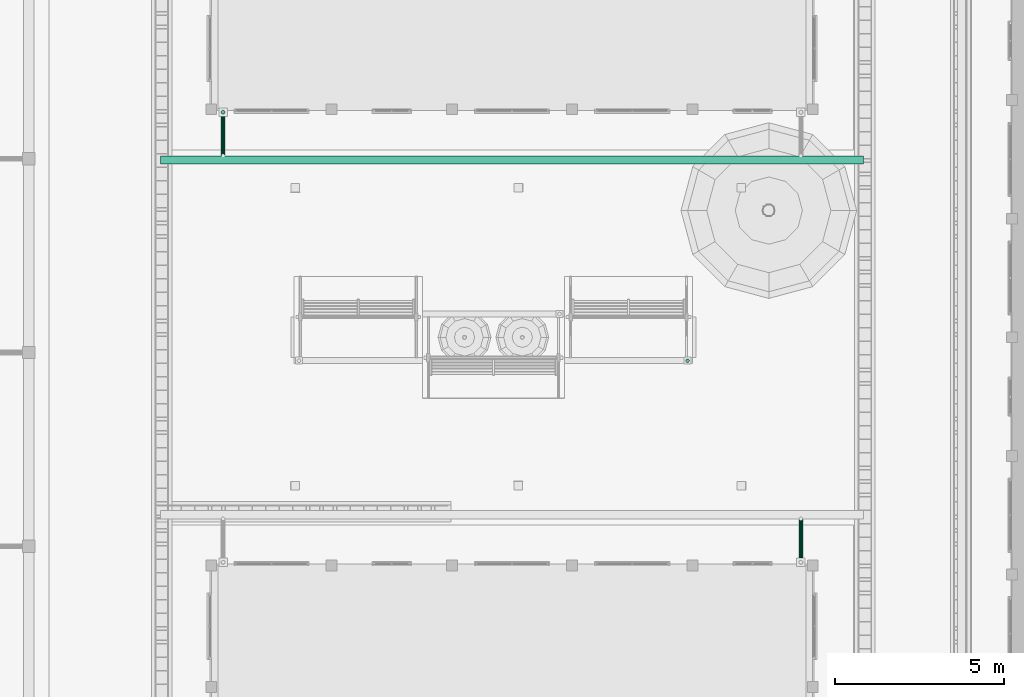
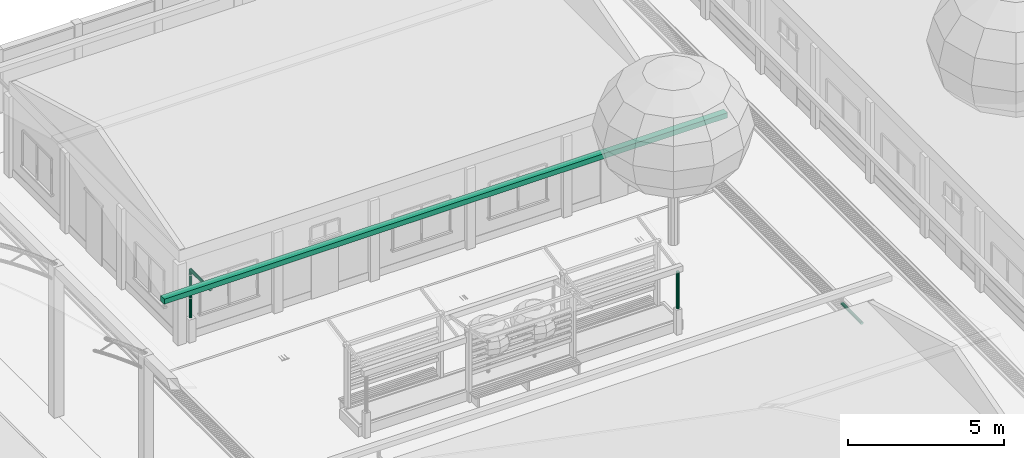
# One storey, part 102 of 166: 5 flow segments.
"""IFC2X3 building model written with IfcOpenShell, lengths in metres."""

from ifc_helpers import new_model, si_unit, origin, origin_with_axes, place, context, subcontext, project, spatial, faceted_brep, element, save


model = new_model("IFC2X3")

# Units and contexts
model_context = context("Model", 3, precision=1e-05, world=origin_with_axes())
body_context = subcontext(model_context, "Body", "Model", "MODEL_VIEW")
ifc_project = project(units=[si_unit("LENGTHUNIT", "METRE"), si_unit("AREAUNIT", "SQUARE_METRE"), si_unit("VOLUMEUNIT", "CUBIC_METRE"), si_unit("PLANEANGLEUNIT", "RADIAN")], contexts=[model_context])

# Site, building, storey
site_placement = place(None, origin_with_axes())
site = spatial("IfcSite", under=ifc_project, at=site_placement, Name="Predio Los Mangos - Morales, San Martín", CompositionType="ELEMENT")
building_placement = place(site_placement, origin())
building = spatial("IfcBuilding", under=site, at=building_placement, Name="Hogar de Refugio Temporal", CompositionType="ELEMENT")
storey_placement = place(building_placement, origin())
storey = spatial("IfcBuildingStorey", under=building, at=storey_placement, Name="NIVEL 1 (NPT +0.00)", CompositionType="ELEMENT", Elevation=0.0)

# Flow segments
flow_segment_1_placement = place(storey_placement, origin())
element("IfcFlowSegment", 1, at=flow_segment_1_placement, inside=storey, Name="E-08_canaleta", ObjectType="Canaleta", context=body_context, shape_type="Brep", body=[
    faceted_brep([(30.5, 115.38, 3.13), (30.5, 115.62, 3.13), (51.3, 115.62, 3.13), (51.3, 115.38, 3.13), (30.5, 115.38, 3.33), (51.3, 115.38, 3.33), (51.3, 115.62, 3.33), (30.5, 115.62, 3.33)], [[[0, 1, 2, 3]], [[4, 5, 6, 7]], [[0, 3, 5, 4]], [[3, 2, 6, 5]], [[2, 1, 7, 6]], [[1, 0, 4, 7]]]),
])
flow_segment_2_placement = place(storey_placement, origin())
element("IfcFlowSegment", 2, at=flow_segment_2_placement, inside=storey, Name="montante_desvio", ObjectType="Montante PVC 4\"", context=body_context, shape_type="Brep", body=[
    faceted_brep([(49.45, 104.88, 2.965), (49.45, 103.59, 2.965), (49.4775, 103.59, 2.9576), (49.4775, 104.88, 2.9576), (49.4976, 103.59, 2.9375), (49.4976, 104.88, 2.9375), (49.505, 103.59, 2.91), (49.505, 104.88, 2.91), (49.4976, 103.59, 2.8825), (49.4976, 104.88, 2.8825), (49.4775, 103.59, 2.8624), (49.4775, 104.88, 2.8624), (49.45, 103.59, 2.855), (49.45, 104.88, 2.855), (49.4225, 103.59, 2.8624), (49.4225, 104.88, 2.8624), (49.4024, 103.59, 2.8825), (49.4024, 104.88, 2.8825), (49.395, 103.59, 2.91), (49.395, 104.88, 2.91), (49.4024, 103.59, 2.9375), (49.4024, 104.88, 2.9375), (49.4225, 103.59, 2.9576), (49.4225, 104.88, 2.9576)], [[[0, 1, 2, 3]], [[3, 2, 4, 5]], [[5, 4, 6, 7]], [[7, 6, 8, 9]], [[9, 8, 10, 11]], [[11, 10, 12, 13]], [[13, 12, 14, 15]], [[15, 14, 16, 17]], [[17, 16, 18, 19]], [[19, 18, 20, 21]], [[2, 1, 22, 20, 18, 16, 14, 12, 10, 8, 6, 4]], [[21, 20, 22, 23]], [[23, 22, 1, 0]], [[0, 3, 5, 7, 9, 11, 13, 15, 17, 19, 21, 23]]]),
])
flow_segment_3_placement = place(storey_placement, origin())
element("IfcFlowSegment", 3, at=flow_segment_3_placement, inside=storey, Name="montante_desvio", ObjectType="Montante PVC 4\"", context=body_context, shape_type="Brep", body=[
    faceted_brep([(32.35, 115.62, 2.965), (32.35, 116.91, 2.965), (32.3225, 116.91, 2.9576), (32.3225, 115.62, 2.9576), (32.3024, 116.91, 2.9375), (32.3024, 115.62, 2.9375), (32.295, 116.91, 2.91), (32.295, 115.62, 2.91), (32.3024, 116.91, 2.8825), (32.3024, 115.62, 2.8825), (32.3225, 116.91, 2.8624), (32.3225, 115.62, 2.8624), (32.35, 116.91, 2.855), (32.35, 115.62, 2.855), (32.3775, 116.91, 2.8624), (32.3775, 115.62, 2.8624), (32.3976, 116.91, 2.8825), (32.3976, 115.62, 2.8825), (32.405, 116.91, 2.91), (32.405, 115.62, 2.91), (32.3976, 116.91, 2.9375), (32.3976, 115.62, 2.9375), (32.3775, 116.91, 2.9576), (32.3775, 115.62, 2.9576)], [[[0, 1, 2, 3]], [[3, 2, 4, 5]], [[5, 4, 6, 7]], [[7, 6, 8, 9]], [[9, 8, 10, 11]], [[11, 10, 12, 13]], [[13, 12, 14, 15]], [[15, 14, 16, 17]], [[17, 16, 18, 19]], [[19, 18, 20, 21]], [[2, 1, 22, 20, 18, 16, 14, 12, 10, 8, 6, 4]], [[21, 20, 22, 23]], [[23, 22, 1, 0]], [[0, 3, 5, 7, 9, 11, 13, 15, 17, 19, 21, 23]]]),
])
flow_segment_4_placement = place(storey_placement, origin())
element("IfcFlowSegment", 4, at=flow_segment_4_placement, inside=storey, Name="montante_bajada", ObjectType="Montante PVC 4\"", context=body_context, shape_type="Brep", body=[
    faceted_brep([(32.35, 116.965, 2.91), (32.35, 116.965, 1.05), (32.3225, 116.9576, 1.05), (32.3225, 116.9576, 2.91), (32.3024, 116.9375, 1.05), (32.3024, 116.9375, 2.91), (32.295, 116.91, 1.05), (32.295, 116.91, 2.91), (32.3024, 116.8825, 1.05), (32.3024, 116.8825, 2.91), (32.3225, 116.8624, 1.05), (32.3225, 116.8624, 2.91), (32.35, 116.855, 1.05), (32.35, 116.855, 2.91), (32.3775, 116.8624, 1.05), (32.3775, 116.8624, 2.91), (32.3976, 116.8825, 1.05), (32.3976, 116.8825, 2.91), (32.405, 116.91, 1.05), (32.405, 116.91, 2.91), (32.3976, 116.9375, 1.05), (32.3976, 116.9375, 2.91), (32.3775, 116.9576, 1.05), (32.3775, 116.9576, 2.91)], [[[0, 1, 2, 3]], [[3, 2, 4, 5]], [[5, 4, 6, 7]], [[7, 6, 8, 9]], [[9, 8, 10, 11]], [[11, 10, 12, 13]], [[13, 12, 14, 15]], [[15, 14, 16, 17]], [[17, 16, 18, 19]], [[19, 18, 20, 21]], [[2, 1, 22, 20, 18, 16, 14, 12, 10, 8, 6, 4]], [[21, 20, 22, 23]], [[23, 22, 1, 0]], [[0, 3, 5, 7, 9, 11, 13, 15, 17, 19, 21, 23]]]),
])
flow_segment_5_placement = place(storey_placement, origin())
element("IfcFlowSegment", 5, at=flow_segment_5_placement, inside=storey, Name="oc01_bajada", ObjectType="Montante PVC 4\"", context=body_context, shape_type="Brep", body=[
    faceted_brep([(46.095, 109.615, 2.49), (46.095, 109.615, 1.05), (46.0675, 109.6076, 1.05), (46.0675, 109.6076, 2.49), (46.0474, 109.5875, 1.05), (46.0474, 109.5875, 2.49), (46.04, 109.56, 1.05), (46.04, 109.56, 2.49), (46.0474, 109.5325, 1.05), (46.0474, 109.5325, 2.49), (46.0675, 109.5124, 1.05), (46.0675, 109.5124, 2.49), (46.095, 109.505, 1.05), (46.095, 109.505, 2.49), (46.1225, 109.5124, 1.05), (46.1225, 109.5124, 2.49), (46.1426, 109.5325, 1.05), (46.1426, 109.5325, 2.49), (46.15, 109.56, 1.05), (46.15, 109.56, 2.49), (46.1426, 109.5875, 1.05), (46.1426, 109.5875, 2.49), (46.1225, 109.6076, 1.05), (46.1225, 109.6076, 2.49)], [[[0, 1, 2, 3]], [[3, 2, 4, 5]], [[5, 4, 6, 7]], [[7, 6, 8, 9]], [[9, 8, 10, 11]], [[11, 10, 12, 13]], [[13, 12, 14, 15]], [[15, 14, 16, 17]], [[17, 16, 18, 19]], [[19, 18, 20, 21]], [[2, 1, 22, 20, 18, 16, 14, 12, 10, 8, 6, 4]], [[21, 20, 22, 23]], [[23, 22, 1, 0]], [[0, 3, 5, 7, 9, 11, 13, 15, 17, 19, 21, 23]]]),
])

save(model, "model.ifc")
